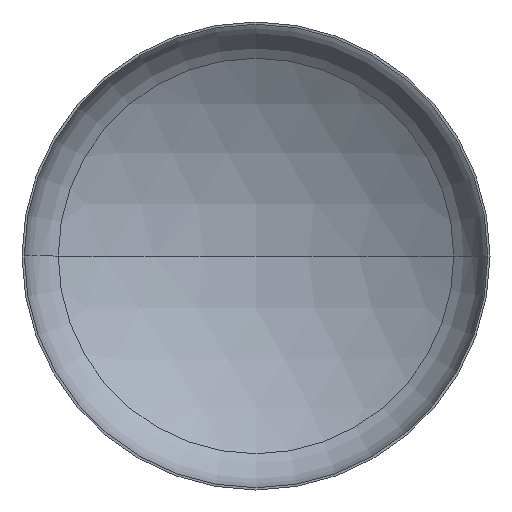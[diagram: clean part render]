
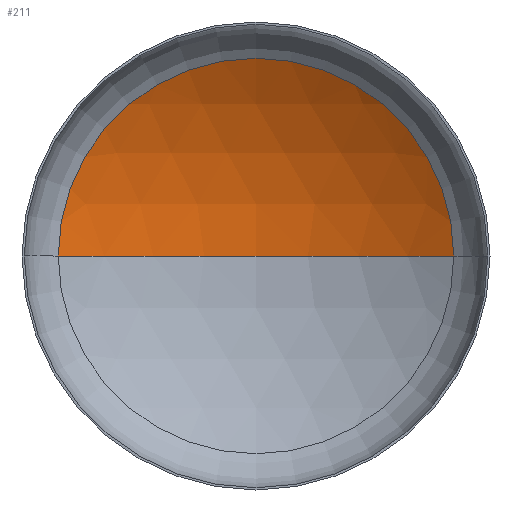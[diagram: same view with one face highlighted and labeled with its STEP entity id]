
A CAD part, front view. The second image highlights one B-rep face of the part: STEP entity #211.
In plain terms, the highlighted spherical face has radius 4000 mm.
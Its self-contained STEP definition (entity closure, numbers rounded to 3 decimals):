
#3 = AXIS2_PLACEMENT_3D ( 'NONE', #162, #340, #185 ) ;
#6 = ORIENTED_EDGE ( 'NONE', *, *, #374, .F. ) ;
#22 = AXIS2_PLACEMENT_3D ( 'NONE', #192, #194, #178 ) ;
#32 = DIRECTION ( 'NONE',  ( -1., 0., 0. ) ) ;
#39 = VERTEX_POINT ( 'NONE', #171 ) ;
#48 = AXIS2_PLACEMENT_3D ( 'NONE', #124, #118, #32 ) ;
#68 = DIRECTION ( 'NONE',  ( 0., 0., 1. ) ) ;
#86 = ORIENTED_EDGE ( 'NONE', *, *, #331, .T. ) ;
#92 = VERTEX_POINT ( 'NONE', #312 ) ;
#100 = VERTEX_POINT ( 'NONE', #240 ) ;
#118 = DIRECTION ( 'NONE',  ( 0., 0., -1. ) ) ;
#124 = CARTESIAN_POINT ( 'NONE',  ( 0., -2667.711, 0. ) ) ;
#125 = EDGE_LOOP ( 'NONE', ( #6, #354, #86 ) ) ;
#148 = CIRCLE ( 'NONE', #3, 4000. ) ;
#162 = CARTESIAN_POINT ( 'NONE',  ( 0., -2667.711, 0. ) ) ;
#171 = CARTESIAN_POINT ( 'NONE',  ( 2112.693, 728.835, 0. ) ) ;
#178 = DIRECTION ( 'NONE',  ( 1., 0., 0. ) ) ;
#185 = DIRECTION ( 'NONE',  ( -1., 0., 0. ) ) ;
#192 = CARTESIAN_POINT ( 'NONE',  ( 0., 728.835, 0. ) ) ;
#194 = DIRECTION ( 'NONE',  ( 0., -1., 0. ) ) ;
#211 = ADVANCED_FACE ( 'NONE', ( #247 ), #382, .F. ) ;
#240 = CARTESIAN_POINT ( 'NONE',  ( 0., 1332.289, 0. ) ) ;
#247 = FACE_OUTER_BOUND ( 'NONE', #125, .T. ) ;
#253 = CARTESIAN_POINT ( 'NONE',  ( 0., -2667.711, 0. ) ) ;
#266 = AXIS2_PLACEMENT_3D ( 'NONE', #253, #68, #284 ) ;
#284 = DIRECTION ( 'NONE',  ( 1., 0., 0. ) ) ;
#312 = CARTESIAN_POINT ( 'NONE',  ( -2112.693, 728.835, 0. ) ) ;
#331 = EDGE_CURVE ( 'NONE', #39, #92, #410, .T. ) ;
#339 = CIRCLE ( 'NONE', #266, 4000. ) ;
#340 = DIRECTION ( 'NONE',  ( 0., 0., -1. ) ) ;
#354 = ORIENTED_EDGE ( 'NONE', *, *, #377, .T. ) ;
#374 = EDGE_CURVE ( 'NONE', #100, #92, #339, .T. ) ;
#377 = EDGE_CURVE ( 'NONE', #100, #39, #148, .T. ) ;
#382 = SPHERICAL_SURFACE ( 'NONE', #48, 4000. ) ;
#410 = CIRCLE ( 'NONE', #22, 2112.693 ) ;
